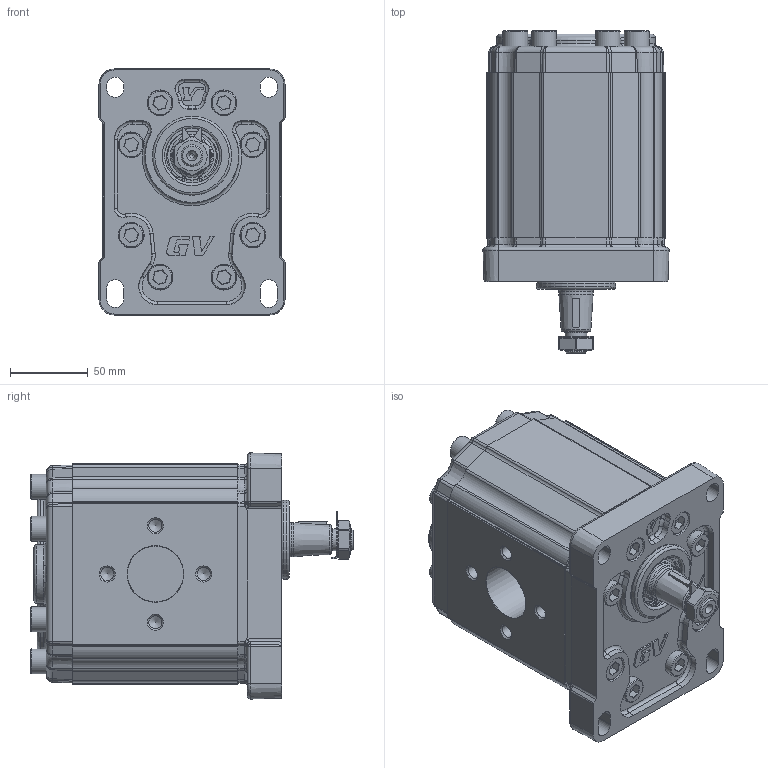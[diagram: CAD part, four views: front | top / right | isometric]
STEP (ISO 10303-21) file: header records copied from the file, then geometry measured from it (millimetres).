
FILE_DESCRIPTION(/* description */ ('Unknown'),/* implementation_level */ '2;1');
FILE_NAME(/* name */ 'G3P8501ACCA',/* time_stamp */ '2026-06-04T18:53:07+02:00',/* author */ ('Unknown'),/* organization */ ('Unknown'),/* preprocessor_version */ 'ST-DEVELOPER v16.7',/* originating_system */ 'Solid Edge',/* authorisation */ 'Unknown');
FILE_SCHEMA (('AUTOMOTIVE_DESIGN {1 0 10303 214 3 1 1}'));
Products named in the file (5): G3P8501ACCA; G3P01; 3A; G3CCH106; GP301-A
Assembly tree (4 placements, depth 2):
  G3P8501ACCA
    G3P01
    3A
    G3CCH106
    GP301-A
Bounding box: 119.5 x 207 x 158.1 mm (x, y, z)
Volume: 2250470.4 mm3; surface area: 222408.1 mm2
Topology: 4 solids, 5 shells, 2723 faces, 9126 edges, 5677 vertices
Faces by surface type: cylinder 1466, plane 919, cone 140, bspline 102, torus 96
Full cylindrical faces by diameter (mm): 2 x2, 6 x2, 8.376 x8, 10 x16, 10.5 x16, 14 x2, 15.8 x16, 16 x16, 16.5 x8, 17 x8, 22 x1, 24.98 x1, 25 x2, 25.968 x1, 28.16 x1, 31 x1, 31.293 x1, 32.742 x1, 34.956 x1, 35 x1, 35.2 x1, 36 x2, 37 x1, 50.8 x1
Entity records: 133092 total; most frequent: CARTESIAN_POINT 36696, ORIENTED_EDGE 17652, DIRECTION 15328, EDGE_CURVE 8826, AXIS2_PLACEMENT_3D 5809, VERTEX_POINT 5597, LINE 3710, VECTOR 3710
